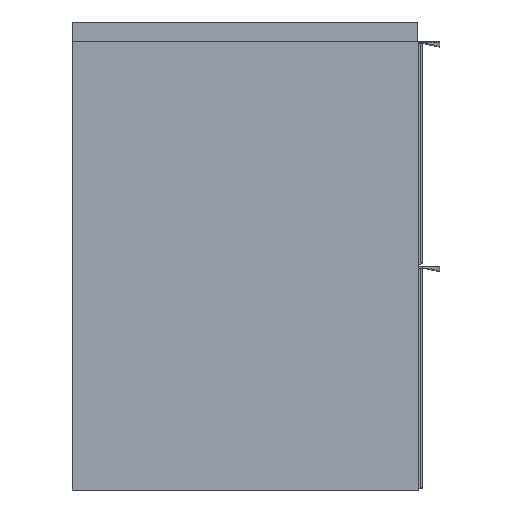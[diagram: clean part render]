
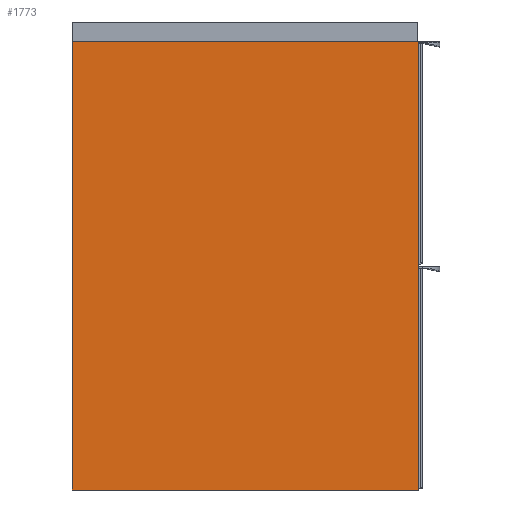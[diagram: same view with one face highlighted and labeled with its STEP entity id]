
A CAD part, left-side view. The second image highlights one B-rep face of the part: STEP entity #1773.
In plain terms, the highlighted planar face has unit normal (-1, 0, 0).
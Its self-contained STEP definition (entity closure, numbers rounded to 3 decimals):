
#1773=ADVANCED_FACE('',(#3031),#21329,.T.);
#3031=FACE_OUTER_BOUND('',#4289,.T.);
#4289=EDGE_LOOP('',(#5720,#5721,#5722,#5723));
#5720=ORIENTED_EDGE('',*,*,#12702,.F.);
#5721=ORIENTED_EDGE('',*,*,#12706,.F.);
#5722=ORIENTED_EDGE('',*,*,#12709,.F.);
#5723=ORIENTED_EDGE('',*,*,#12711,.F.);
#12702=EDGE_CURVE('',#18968,#18969,#16202,.T.);
#12706=EDGE_CURVE('',#18971,#18968,#16206,.T.);
#12709=EDGE_CURVE('',#18973,#18971,#16209,.T.);
#12711=EDGE_CURVE('',#18969,#18973,#16211,.T.);
#16202=B_SPLINE_CURVE_WITH_KNOTS('',1,(#24865,#24866),.UNSPECIFIED.,.F.,
 .F.,(2,2),(-500.,0.),.UNSPECIFIED.);
#16206=B_SPLINE_CURVE_WITH_KNOTS('',1,(#24873,#24874),.UNSPECIFIED.,.F.,
 .F.,(2,2),(-386.,0.),.UNSPECIFIED.);
#16209=B_SPLINE_CURVE_WITH_KNOTS('',1,(#24879,#24880),.UNSPECIFIED.,.F.,
 .F.,(2,2),(-500.,0.),.UNSPECIFIED.);
#16211=B_SPLINE_CURVE_WITH_KNOTS('',1,(#24883,#24884),.UNSPECIFIED.,.F.,
 .F.,(2,2),(-386.,0.),.UNSPECIFIED.);
#18968=VERTEX_POINT('',#24855);
#18969=VERTEX_POINT('',#24856);
#18971=VERTEX_POINT('',#24858);
#18973=VERTEX_POINT('',#24860);
#21329=PLANE('',#22816);
#22816=AXIS2_PLACEMENT_3D('',#24852,#23792,$);
#23792=DIRECTION('',(-1.,0.,0.));
#24852=CARTESIAN_POINT('',(6115.006,-5032.823,-40.828));
#24855=CARTESIAN_POINT('',(6115.006,-4994.103,-90.948));
#24856=CARTESIAN_POINT('',(6115.006,-4994.103,-590.948));
#24858=CARTESIAN_POINT('',(6115.006,-4608.103,-90.948));
#24860=CARTESIAN_POINT('',(6115.006,-4608.103,-590.948));
#24865=CARTESIAN_POINT('',(6115.006,-4994.103,-90.948));
#24866=CARTESIAN_POINT('',(6115.006,-4994.103,-590.948));
#24873=CARTESIAN_POINT('',(6115.006,-4608.103,-90.948));
#24874=CARTESIAN_POINT('',(6115.006,-4994.103,-90.948));
#24879=CARTESIAN_POINT('',(6115.006,-4608.103,-590.948));
#24880=CARTESIAN_POINT('',(6115.006,-4608.103,-90.948));
#24883=CARTESIAN_POINT('',(6115.006,-4994.103,-590.948));
#24884=CARTESIAN_POINT('',(6115.006,-4608.103,-590.948));
